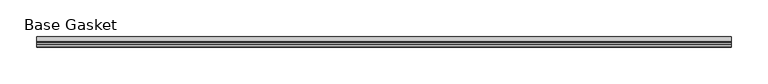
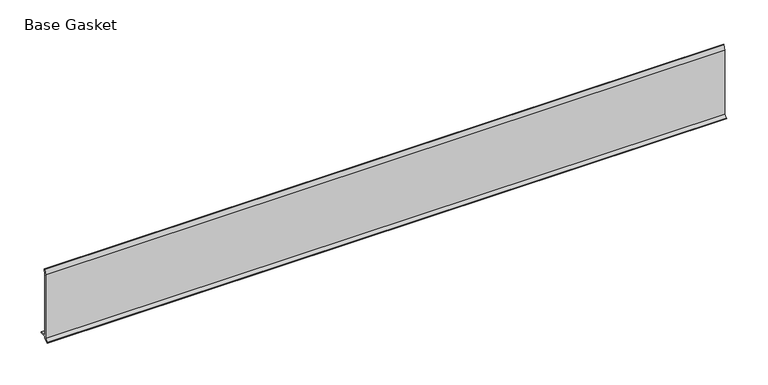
"""IFC4 building model written with IfcOpenShell, lengths in millimetres: furniture geometry, Gasket-Teknion-FHGB-AI_Healthcare-R2021 : Base Gasket."""

from ifc_helpers import new_model, si_unit, frame, origin, place, context, project, spatial, polyline, outline, extrude, source, transform, mapped, element, save


def base_gasket_dc5ff0f7(model_context):
    return source(origin(), model_context, "Body", "SweptSolid", [
        extrude(outline(polyline([(-3.7283812, 98.4568417), (-1.1891543, 104.587663), (-0.6755308, 105.2002997), (-0.6755308, 104.4162708), (-2.2043812, 98.4568417), (-2.2043812, 96.8693477), (-1.4106313, 96.8693477), (-1.4106313, 71.4693447), (-2.2043812, 71.4693447), (-2.2043812, 7.9398773), (6.2405171, 7.9398773), (6.2405171, 6.3818476), (-2.1334222, 6.3818476), (-2.2043812, 4.3498477), (-6.8281054, 0.3520979), (-7.8482342, 0.0), (-7.4222115, 0.6560174), (-3.7283812, 4.3498477), (-3.7283812, 98.4568417)])), frame((-1527.8982117, 0.0, 0.0), z_axis=(1.0, 0.0, 0.0), x_axis=(0.0, 1.0, 0.0)), (0.0, 0.0, 1.0), 946.3092012),
    ])


if __name__ == "__main__":
    model = new_model("IFC4")
    model_context = context("Model", 3, world=origin())
    ifc_project = project(units=[si_unit("LENGTHUNIT", "METRE", prefix="MILLI")], contexts=[model_context])
    site = spatial("IfcSite", under=ifc_project)
    building = spatial("IfcBuilding", under=site)
    placement = place(None, origin())
    base_gasket_shape = base_gasket_dc5ff0f7(model_context)
    element("IfcFurniture", 1, ObjectType="Gasket-Teknion-FHGB-AI_Healthcare-R2021 : Base Gasket", at=placement, inside=building, context=model_context, shape_type="MappedRepresentation", body=[
        mapped(base_gasket_shape, transform((0.0, 0.0, 0.0), x_axis=(1.0, 0.0, 0.0), y_axis=(0.0, 1.0, 0.0), z_axis=(0.0, 0.0, 1.0))),
    ])
    save(model, "model.ifc")
